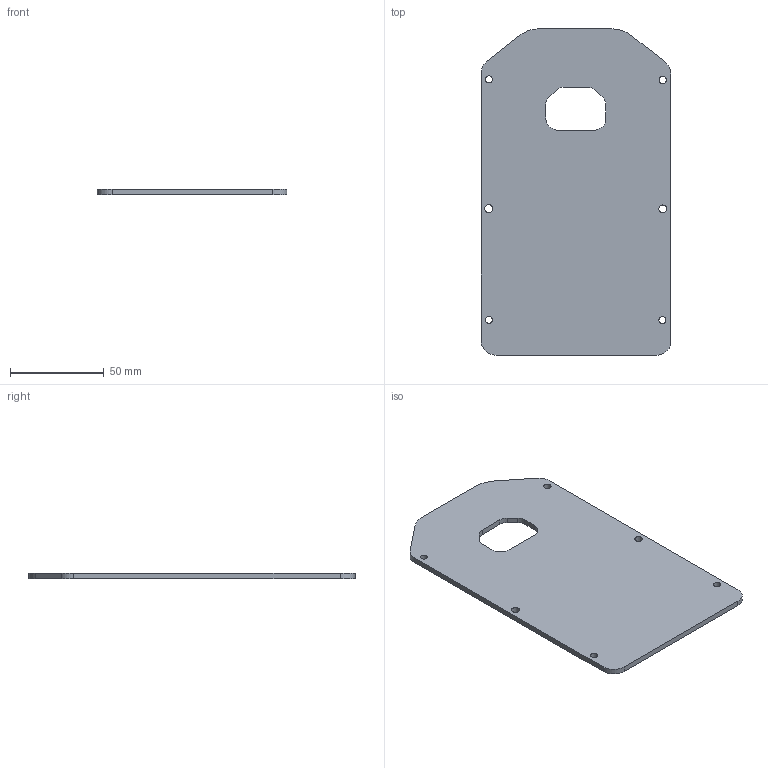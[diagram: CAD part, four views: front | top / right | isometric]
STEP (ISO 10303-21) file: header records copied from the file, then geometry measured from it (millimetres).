
FILE_DESCRIPTION(('Open CASCADE Model'),'2;1');
FILE_NAME('Open CASCADE Shape Model','2026-10-01T15:23:51',('Author'),( 'Open CASCADE'),'Open CASCADE STEP processor 7.9','Open CASCADE 7.9' ,'Unknown');
FILE_SCHEMA(('AUTOMOTIVE_DESIGN { 1 0 10303 214 1 1 1 1 }'));
Length unit declared in the file: millimetre
Products named in the file (1): Open CASCADE STEP translator 7.9 13
Bounding box: 101 x 173.62 x 3 mm (x, y, z)
Volume: 48778.2 mm3; surface area: 34570.8 mm2
Topology: 1 solids, 1 shells, 32 faces, 90 edges, 60 vertices
Faces by surface type: cylinder 18, plane 14
Full cylindrical faces by diameter (mm): 3.761 x1, 3.77 x1, 3.824 x1, 3.879 x1, 4.12 x1, 4.282 x1
Entity records: 2306 total; most frequent: CARTESIAN_POINT 531, DIRECTION 324, ORIENTED_EDGE 180, PCURVE 180, DEFINITIONAL_REPRESENTATION 180, LINE 174, VECTOR 174, EDGE_CURVE 90
